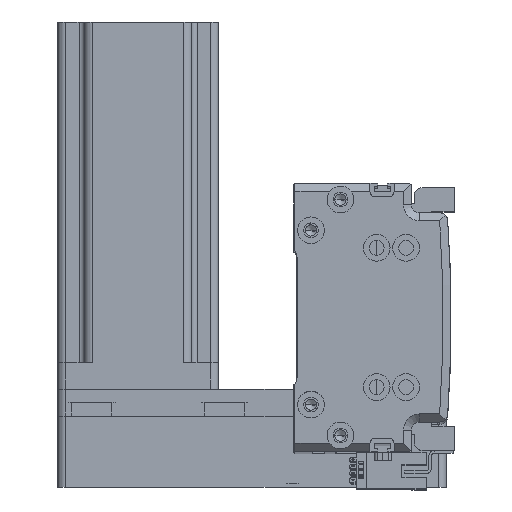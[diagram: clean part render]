
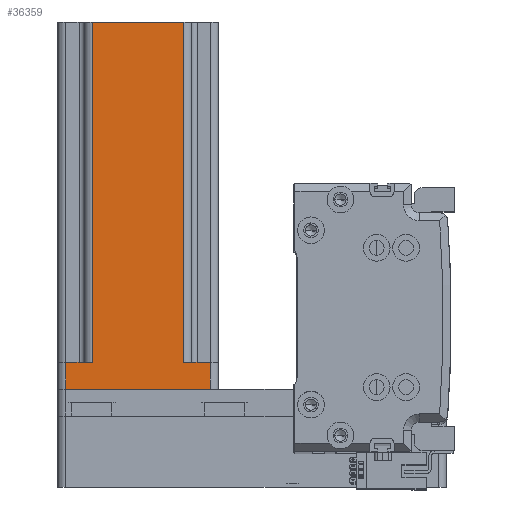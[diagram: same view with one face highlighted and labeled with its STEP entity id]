
A CAD part, top view. The second image highlights one B-rep face of the part: STEP entity #36359.
In plain terms, the highlighted planar face has unit normal (0, 0, 1) as drawn and (0, -1, 0) by its records, which use the part's own axes.
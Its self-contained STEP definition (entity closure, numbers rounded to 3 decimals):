
#120 = VECTOR ( 'NONE', #2493, 1000. ) ;
#1241 = VECTOR ( 'NONE', #28581, 1000. ) ;
#1476 = VECTOR ( 'NONE', #19350, 1000. ) ;
#2342 = LINE ( 'NONE', #21359, #1241 ) ;
#2493 = DIRECTION ( 'NONE',  ( 1., 0., 0. ) ) ;
#2565 = CARTESIAN_POINT ( 'NONE',  ( 17., -30., 10. ) ) ;
#3776 = DIRECTION ( 'NONE',  ( 0., 0., -1. ) ) ;
#4130 = ORIENTED_EDGE ( 'NONE', *, *, #37853, .T. ) ;
#4294 = CARTESIAN_POINT ( 'NONE',  ( -17., -30., 137. ) ) ;
#6068 = EDGE_CURVE ( 'NONE', #29684, #36898, #21210, .T. ) ;
#6371 = EDGE_CURVE ( 'NONE', #29684, #39062, #39844, .T. ) ;
#7754 = FACE_OUTER_BOUND ( 'NONE', #27984, .T. ) ;
#8858 = EDGE_CURVE ( 'NONE', #15493, #24454, #26959, .T. ) ;
#9794 = VECTOR ( 'NONE', #16972, 1000. ) ;
#11107 = EDGE_CURVE ( 'NONE', #29917, #44361, #2342, .T. ) ;
#11655 = VERTEX_POINT ( 'NONE', #32113 ) ;
#13745 = EDGE_CURVE ( 'NONE', #11655, #15493, #24342, .T. ) ;
#14009 = PLANE ( 'NONE',  #18734 ) ;
#14144 = DIRECTION ( 'NONE',  ( 0., 1., 0. ) ) ;
#14310 = ORIENTED_EDGE ( 'NONE', *, *, #13745, .T. ) ;
#15471 = CARTESIAN_POINT ( 'NONE',  ( 27., -30., 10. ) ) ;
#15493 = VERTEX_POINT ( 'NONE', #40460 ) ;
#15818 = CARTESIAN_POINT ( 'NONE',  ( 30., -30., 137. ) ) ;
#16274 = CARTESIAN_POINT ( 'NONE',  ( 17., -30., 137. ) ) ;
#16381 = CARTESIAN_POINT ( 'NONE',  ( 30., -30., 0. ) ) ;
#16972 = DIRECTION ( 'NONE',  ( 1., 0., 0. ) ) ;
#17191 = CARTESIAN_POINT ( 'NONE',  ( -17., -30., 137. ) ) ;
#18734 = AXIS2_PLACEMENT_3D ( 'NONE', #35115, #14144, #38645 ) ;
#19350 = DIRECTION ( 'NONE',  ( 1., 0., 0. ) ) ;
#19451 = ORIENTED_EDGE ( 'NONE', *, *, #27478, .T. ) ;
#21203 = CARTESIAN_POINT ( 'NONE',  ( -27., -30., 137. ) ) ;
#21210 = LINE ( 'NONE', #15818, #1476 ) ;
#21220 = VECTOR ( 'NONE', #28792, 1000. ) ;
#21256 = VECTOR ( 'NONE', #44260, 1000. ) ;
#21359 = CARTESIAN_POINT ( 'NONE',  ( 20., -30., 10. ) ) ;
#21850 = ORIENTED_EDGE ( 'NONE', *, *, #11107, .T. ) ;
#23428 = LINE ( 'NONE', #16274, #21256 ) ;
#24342 = LINE ( 'NONE', #21203, #32606 ) ;
#24454 = VERTEX_POINT ( 'NONE', #43191 ) ;
#26959 = LINE ( 'NONE', #16381, #120 ) ;
#27478 = EDGE_CURVE ( 'NONE', #24454, #29917, #37284, .T. ) ;
#27512 = CARTESIAN_POINT ( 'NONE',  ( -17., -30., 10. ) ) ;
#27984 = EDGE_LOOP ( 'NONE', ( #38938, #39263, #34396, #14310, #31266, #19451, #21850, #4130 ) ) ;
#28013 = VECTOR ( 'NONE', #39217, 1000. ) ;
#28441 = LINE ( 'NONE', #44985, #9794 ) ;
#28581 = DIRECTION ( 'NONE',  ( -1., 0., 0. ) ) ;
#28792 = DIRECTION ( 'NONE',  ( 0., 0., -1. ) ) ;
#29684 = VERTEX_POINT ( 'NONE', #17191 ) ;
#29917 = VERTEX_POINT ( 'NONE', #15471 ) ;
#31266 = ORIENTED_EDGE ( 'NONE', *, *, #8858, .T. ) ;
#32113 = CARTESIAN_POINT ( 'NONE',  ( -27., -30., 10. ) ) ;
#32606 = VECTOR ( 'NONE', #3776, 1000. ) ;
#34396 = ORIENTED_EDGE ( 'NONE', *, *, #34803, .F. ) ;
#34803 = EDGE_CURVE ( 'NONE', #11655, #39062, #28441, .T. ) ;
#35115 = CARTESIAN_POINT ( 'NONE',  ( 30., -30., 137. ) ) ;
#35645 = CARTESIAN_POINT ( 'NONE',  ( 27., -30., 137. ) ) ;
#36359 = ADVANCED_FACE ( 'NONE', ( #7754 ), #14009, .F. ) ;
#36898 = VERTEX_POINT ( 'NONE', #38744 ) ;
#37284 = LINE ( 'NONE', #35645, #28013 ) ;
#37853 = EDGE_CURVE ( 'NONE', #44361, #36898, #23428, .T. ) ;
#38645 = DIRECTION ( 'NONE',  ( -1., 0., 0. ) ) ;
#38744 = CARTESIAN_POINT ( 'NONE',  ( 17., -30., 137. ) ) ;
#38938 = ORIENTED_EDGE ( 'NONE', *, *, #6068, .F. ) ;
#39062 = VERTEX_POINT ( 'NONE', #27512 ) ;
#39217 = DIRECTION ( 'NONE',  ( 0., 0., 1. ) ) ;
#39263 = ORIENTED_EDGE ( 'NONE', *, *, #6371, .T. ) ;
#39844 = LINE ( 'NONE', #4294, #21220 ) ;
#40460 = CARTESIAN_POINT ( 'NONE',  ( -27., -30., 0. ) ) ;
#43191 = CARTESIAN_POINT ( 'NONE',  ( 27., -30., 0. ) ) ;
#44260 = DIRECTION ( 'NONE',  ( 0., 0., 1. ) ) ;
#44361 = VERTEX_POINT ( 'NONE', #2565 ) ;
#44985 = CARTESIAN_POINT ( 'NONE',  ( -20., -30., 10. ) ) ;
